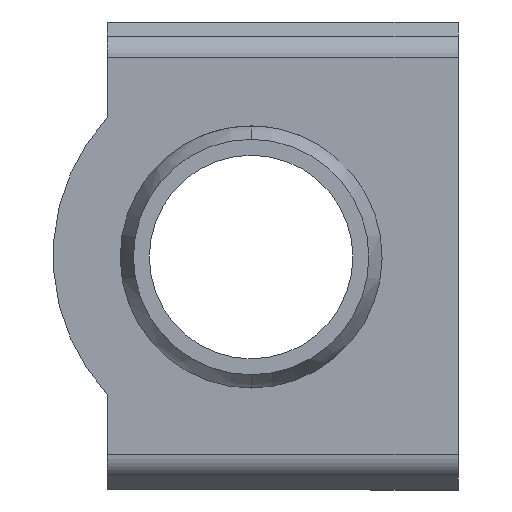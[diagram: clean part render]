
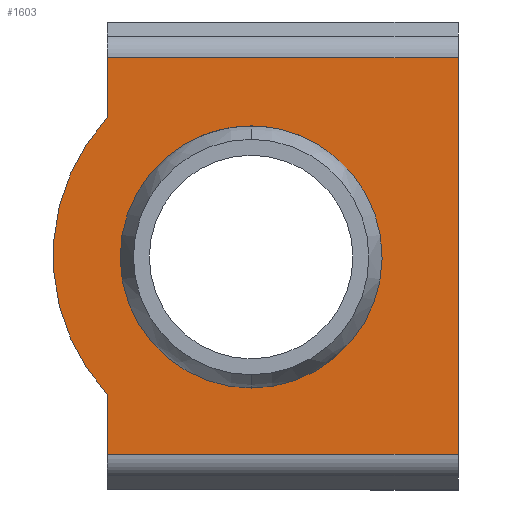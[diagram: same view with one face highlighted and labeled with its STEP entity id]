
A CAD part, left-side view. The second image highlights one B-rep face of the part: STEP entity #1603.
In plain terms, the highlighted planar face has unit normal (-1, 0, 0).
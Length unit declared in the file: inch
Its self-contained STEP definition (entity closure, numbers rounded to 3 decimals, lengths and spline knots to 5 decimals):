
#6 = ORIENTED_EDGE ( 'NONE', *, *, #266, .F. ) ;
#177 = CARTESIAN_POINT ( 'NONE',  ( 0., 1.15, 0.56656 ) ) ;
#231 = ORIENTED_EDGE ( 'NONE', *, *, #4653, .F. ) ;
#266 = EDGE_CURVE ( 'NONE', #2113, #1822, #4305, .T. ) ;
#282 = ORIENTED_EDGE ( 'NONE', *, *, #2406, .F. ) ;
#315 = VERTEX_POINT ( 'NONE', #1442 ) ;
#401 = DIRECTION ( 'NONE',  ( 0., 1., 0. ) ) ;
#531 = DIRECTION ( 'NONE',  ( -1., 0., 0. ) ) ;
#578 = LINE ( 'NONE', #1579, #4354 ) ;
#632 = FACE_BOUND ( 'NONE', #3138, .T. ) ;
#704 = CARTESIAN_POINT ( 'NONE',  ( 0., 0., 0.19757 ) ) ;
#735 = CARTESIAN_POINT ( 'NONE',  ( 0., 1.11845, 1.3 ) ) ;
#797 = VERTEX_POINT ( 'NONE', #1632 ) ;
#826 = DIRECTION ( 'NONE',  ( 0., 0., 1. ) ) ;
#840 = CARTESIAN_POINT ( 'NONE',  ( 0., 0., 0.19757 ) ) ;
#910 = VERTEX_POINT ( 'NONE', #2403 ) ;
#959 = AXIS2_PLACEMENT_3D ( 'NONE', #2726, #531, #3099 ) ;
#1060 = VERTEX_POINT ( 'NONE', #2828 ) ;
#1088 = DIRECTION ( 'NONE',  ( -1., 0., 0. ) ) ;
#1117 = DIRECTION ( 'NONE',  ( 0., 0., -1. ) ) ;
#1151 = AXIS2_PLACEMENT_3D ( 'NONE', #3675, #2576, #401 ) ;
#1313 = VECTOR ( 'NONE', #2183, 39.37008 ) ;
#1354 = EDGE_CURVE ( 'NONE', #1822, #1403, #578, .T. ) ;
#1368 = ORIENTED_EDGE ( 'NONE', *, *, #3058, .F. ) ;
#1389 = AXIS2_PLACEMENT_3D ( 'NONE', #735, #3287, #1117 ) ;
#1403 = VERTEX_POINT ( 'NONE', #2706 ) ;
#1438 = VERTEX_POINT ( 'NONE', #177 ) ;
#1442 = CARTESIAN_POINT ( 'NONE',  ( 0., 1.949, 2.0685 ) ) ;
#1569 = CARTESIAN_POINT ( 'NONE',  ( 0., 1.949, 2.6 ) ) ;
#1579 = CARTESIAN_POINT ( 'NONE',  ( 0., 1.949, 2.6 ) ) ;
#1603 = ADVANCED_FACE ( 'NONE', ( #632, #4413 ), #1848, .F. ) ;
#1632 = CARTESIAN_POINT ( 'NONE',  ( 0., 1.52477, 1.9177 ) ) ;
#1696 = CARTESIAN_POINT ( 'NONE',  ( 0., 0., 2.40243 ) ) ;
#1698 = VECTOR ( 'NONE', #3888, 39.37008 ) ;
#1822 = VERTEX_POINT ( 'NONE', #3791 ) ;
#1848 = PLANE ( 'NONE',  #1151 ) ;
#1964 = CIRCLE ( 'NONE', #4258, 0.72754 ) ;
#2056 = VECTOR ( 'NONE', #826, 39.37008 ) ;
#2082 = EDGE_CURVE ( 'NONE', #315, #3532, #3145, .T. ) ;
#2113 = VERTEX_POINT ( 'NONE', #840 ) ;
#2148 = DIRECTION ( 'NONE',  ( 0., 1., 0. ) ) ;
#2152 = CARTESIAN_POINT ( 'NONE',  ( 0., 1.15, 1.3 ) ) ;
#2183 = DIRECTION ( 'NONE',  ( 0., 0., -1. ) ) ;
#2270 = LINE ( 'NONE', #704, #1313 ) ;
#2361 = VECTOR ( 'NONE', #2148, 39.37008 ) ;
#2403 = CARTESIAN_POINT ( 'NONE',  ( 0., 0., 2.40243 ) ) ;
#2406 = EDGE_CURVE ( 'NONE', #910, #2113, #2270, .T. ) ;
#2436 = ORIENTED_EDGE ( 'NONE', *, *, #1354, .F. ) ;
#2476 = ORIENTED_EDGE ( 'NONE', *, *, #3333, .F. ) ;
#2507 = DIRECTION ( 'NONE',  ( 0., 0., -1. ) ) ;
#2525 = AXIS2_PLACEMENT_3D ( 'NONE', #2152, #4716, #2507 ) ;
#2576 = DIRECTION ( 'NONE',  ( 1., 0., 0. ) ) ;
#2706 = CARTESIAN_POINT ( 'NONE',  ( 0., 1.949, 0.5315 ) ) ;
#2726 = CARTESIAN_POINT ( 'NONE',  ( 0., 1.15, 1.29411 ) ) ;
#2828 = CARTESIAN_POINT ( 'NONE',  ( 0., 0.77523, 1.9177 ) ) ;
#3042 = DIRECTION ( 'NONE',  ( 0., 0., 1. ) ) ;
#3058 = EDGE_CURVE ( 'NONE', #3532, #910, #4620, .T. ) ;
#3071 = ORIENTED_EDGE ( 'NONE', *, *, #2082, .F. ) ;
#3099 = DIRECTION ( 'NONE',  ( 0., 0., -1. ) ) ;
#3138 = EDGE_LOOP ( 'NONE', ( #3304, #2476, #4271 ) ) ;
#3145 = LINE ( 'NONE', #1569, #2056 ) ;
#3263 = CARTESIAN_POINT ( 'NONE',  ( 0., 1.15, 1.29411 ) ) ;
#3287 = DIRECTION ( 'NONE',  ( 1., 0., 0. ) ) ;
#3304 = ORIENTED_EDGE ( 'NONE', *, *, #4357, .F. ) ;
#3333 = EDGE_CURVE ( 'NONE', #1438, #1060, #3334, .T. ) ;
#3334 = CIRCLE ( 'NONE', #959, 0.72754 ) ;
#3532 = VERTEX_POINT ( 'NONE', #4315 ) ;
#3638 = DIRECTION ( 'NONE',  ( 0., 0., -1. ) ) ;
#3675 = CARTESIAN_POINT ( 'NONE',  ( 0., 0., 2.6 ) ) ;
#3791 = CARTESIAN_POINT ( 'NONE',  ( 0., 1.949, 0.19757 ) ) ;
#3888 = DIRECTION ( 'NONE',  ( 0., -1., 0. ) ) ;
#3902 = CIRCLE ( 'NONE', #2525, 0.7225 ) ;
#4030 = EDGE_LOOP ( 'NONE', ( #6, #282, #1368, #3071, #231, #2436 ) ) ;
#4258 = AXIS2_PLACEMENT_3D ( 'NONE', #3263, #1088, #3638 ) ;
#4271 = ORIENTED_EDGE ( 'NONE', *, *, #4401, .F. ) ;
#4305 = LINE ( 'NONE', #4339, #2361 ) ;
#4315 = CARTESIAN_POINT ( 'NONE',  ( 0., 1.949, 2.40243 ) ) ;
#4339 = CARTESIAN_POINT ( 'NONE',  ( 0., 0., 0.19757 ) ) ;
#4354 = VECTOR ( 'NONE', #3042, 39.37008 ) ;
#4357 = EDGE_CURVE ( 'NONE', #1060, #797, #3902, .T. ) ;
#4401 = EDGE_CURVE ( 'NONE', #797, #1438, #1964, .T. ) ;
#4413 = FACE_OUTER_BOUND ( 'NONE', #4030, .T. ) ;
#4544 = CIRCLE ( 'NONE', #1389, 1.13155 ) ;
#4620 = LINE ( 'NONE', #1696, #1698 ) ;
#4653 = EDGE_CURVE ( 'NONE', #1403, #315, #4544, .T. ) ;
#4716 = DIRECTION ( 'NONE',  ( -1., 0., 0. ) ) ;
